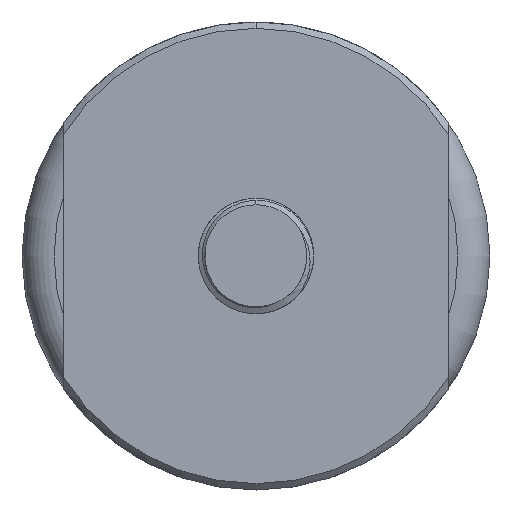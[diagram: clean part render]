
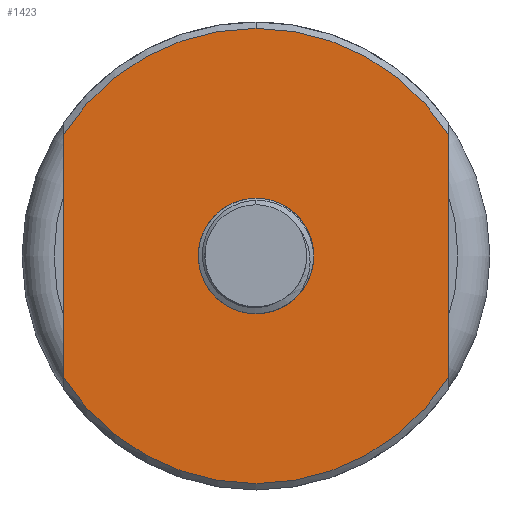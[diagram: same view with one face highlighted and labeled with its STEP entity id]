
A CAD part, front view. The second image highlights one B-rep face of the part: STEP entity #1423.
In plain terms, the highlighted planar face has unit normal (0, -1, 0).
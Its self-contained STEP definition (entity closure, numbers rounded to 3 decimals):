
#30 = EDGE_CURVE ( 'NONE', #2505, #6085, #428, .T. ) ;
#138 = ORIENTED_EDGE ( 'NONE', *, *, #6489, .F. ) ;
#165 = EDGE_CURVE ( 'NONE', #6085, #347, #4773, .T. ) ;
#347 = VERTEX_POINT ( 'NONE', #7815 ) ;
#428 = CIRCLE ( 'NONE', #7565, 71. ) ;
#552 = AXIS2_PLACEMENT_3D ( 'NONE', #6439, #3941, #5217 ) ;
#606 = DIRECTION ( 'NONE',  ( 0., 0., -1. ) ) ;
#650 = VECTOR ( 'NONE', #5612, 1000. ) ;
#782 = VERTEX_POINT ( 'NONE', #2189 ) ;
#850 = CARTESIAN_POINT ( 'NONE',  ( 0., 0., 71. ) ) ;
#869 = VERTEX_POINT ( 'NONE', #7012 ) ;
#947 = ORIENTED_EDGE ( 'NONE', *, *, #4951, .F. ) ;
#963 = DIRECTION ( 'NONE',  ( 0., 0., -1. ) ) ;
#1412 = ORIENTED_EDGE ( 'NONE', *, *, #2681, .F. ) ;
#1423 = ADVANCED_FACE ( 'NONE', ( #6330, #6366 ), #4467, .T. ) ;
#1462 = VERTEX_POINT ( 'NONE', #3274 ) ;
#1539 = CARTESIAN_POINT ( 'NONE',  ( -60., 0., -73. ) ) ;
#1709 = EDGE_LOOP ( 'NONE', ( #138, #947 ) ) ;
#1900 = LINE ( 'NONE', #4270, #650 ) ;
#1918 = AXIS2_PLACEMENT_3D ( 'NONE', #4973, #7311, #606 ) ;
#1951 = ORIENTED_EDGE ( 'NONE', *, *, #30, .T. ) ;
#2189 = CARTESIAN_POINT ( 'NONE',  ( 60., 0., -37.961 ) ) ;
#2196 = EDGE_LOOP ( 'NONE', ( #1412, #3410, #2519, #1951, #3495 ) ) ;
#2298 = CIRCLE ( 'NONE', #4986, 18. ) ;
#2505 = VERTEX_POINT ( 'NONE', #5112 ) ;
#2519 = ORIENTED_EDGE ( 'NONE', *, *, #4218, .T. ) ;
#2538 = DIRECTION ( 'NONE',  ( 0., -1., 0. ) ) ;
#2665 = VERTEX_POINT ( 'NONE', #6336 ) ;
#2681 = EDGE_CURVE ( 'NONE', #1462, #347, #7009, .T. ) ;
#3274 = CARTESIAN_POINT ( 'NONE',  ( -60., 0., -37.961 ) ) ;
#3319 = DIRECTION ( 'NONE',  ( 0., 0., 1. ) ) ;
#3410 = ORIENTED_EDGE ( 'NONE', *, *, #6108, .T. ) ;
#3495 = ORIENTED_EDGE ( 'NONE', *, *, #165, .T. ) ;
#3582 = AXIS2_PLACEMENT_3D ( 'NONE', #5090, #2538, #4378 ) ;
#3600 = DIRECTION ( 'NONE',  ( 0., 0., -1. ) ) ;
#3941 = DIRECTION ( 'NONE',  ( 0., -1., 0. ) ) ;
#4010 = CARTESIAN_POINT ( 'NONE',  ( 0., 0., 0. ) ) ;
#4218 = EDGE_CURVE ( 'NONE', #782, #2505, #1900, .T. ) ;
#4243 = CARTESIAN_POINT ( 'NONE',  ( 0., 0., 0. ) ) ;
#4270 = CARTESIAN_POINT ( 'NONE',  ( 60., 0., -73. ) ) ;
#4376 = DIRECTION ( 'NONE',  ( 0., -1., 0. ) ) ;
#4378 = DIRECTION ( 'NONE',  ( 0., 0., -1. ) ) ;
#4467 = PLANE ( 'NONE',  #552 ) ;
#4482 = CIRCLE ( 'NONE', #3582, 71. ) ;
#4773 = CIRCLE ( 'NONE', #6931, 71. ) ;
#4796 = DIRECTION ( 'NONE',  ( 0., -1., 0. ) ) ;
#4951 = EDGE_CURVE ( 'NONE', #2665, #869, #5356, .T. ) ;
#4973 = CARTESIAN_POINT ( 'NONE',  ( 0., 0., 0. ) ) ;
#4986 = AXIS2_PLACEMENT_3D ( 'NONE', #4243, #4796, #3600 ) ;
#5090 = CARTESIAN_POINT ( 'NONE',  ( 0., 0., 0. ) ) ;
#5112 = CARTESIAN_POINT ( 'NONE',  ( 60., 0., 37.961 ) ) ;
#5217 = DIRECTION ( 'NONE',  ( 0., 0., -1. ) ) ;
#5356 = CIRCLE ( 'NONE', #1918, 18. ) ;
#5521 = CARTESIAN_POINT ( 'NONE',  ( 0., 0., 0. ) ) ;
#5612 = DIRECTION ( 'NONE',  ( 0., 0., 1. ) ) ;
#6085 = VERTEX_POINT ( 'NONE', #850 ) ;
#6108 = EDGE_CURVE ( 'NONE', #1462, #782, #4482, .T. ) ;
#6330 = FACE_OUTER_BOUND ( 'NONE', #2196, .T. ) ;
#6336 = CARTESIAN_POINT ( 'NONE',  ( -18., 0., 0. ) ) ;
#6366 = FACE_BOUND ( 'NONE', #1709, .T. ) ;
#6430 = DIRECTION ( 'NONE',  ( 0., -1., 0. ) ) ;
#6439 = CARTESIAN_POINT ( 'NONE',  ( 0., 0., -71. ) ) ;
#6489 = EDGE_CURVE ( 'NONE', #869, #2665, #2298, .T. ) ;
#6931 = AXIS2_PLACEMENT_3D ( 'NONE', #4010, #6430, #963 ) ;
#7009 = LINE ( 'NONE', #1539, #7506 ) ;
#7012 = CARTESIAN_POINT ( 'NONE',  ( -12.728, 0., 12.728 ) ) ;
#7311 = DIRECTION ( 'NONE',  ( 0., -1., 0. ) ) ;
#7425 = DIRECTION ( 'NONE',  ( 0., 0., -1. ) ) ;
#7506 = VECTOR ( 'NONE', #3319, 1000. ) ;
#7565 = AXIS2_PLACEMENT_3D ( 'NONE', #5521, #4376, #7425 ) ;
#7815 = CARTESIAN_POINT ( 'NONE',  ( -60., 0., 37.961 ) ) ;
